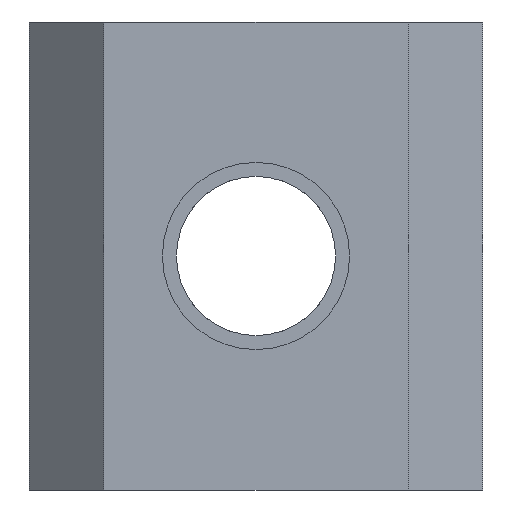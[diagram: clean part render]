
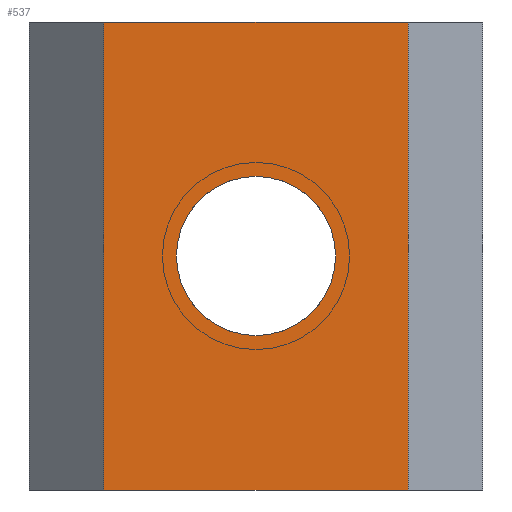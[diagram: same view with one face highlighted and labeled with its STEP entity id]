
A CAD part, front view. The second image highlights one B-rep face of the part: STEP entity #537.
In plain terms, the highlighted planar face has unit normal (0, -1, 0).
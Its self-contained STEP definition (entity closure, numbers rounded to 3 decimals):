
#25=DIRECTION('',(1.,0.,0.));
#26=VECTOR('',#25,13.);
#27=CARTESIAN_POINT('',(-6.5,-5.8,-10.));
#28=LINE('',#27,#26);
#159=DIRECTION('',(0.,0.,1.));
#160=VECTOR('',#159,20.);
#161=CARTESIAN_POINT('',(-6.5,-5.8,-10.));
#162=LINE('',#161,#160);
#163=CARTESIAN_POINT('',(0.,-5.8,0.));
#164=DIRECTION('',(0.,1.,0.));
#165=DIRECTION('',(1.,0.,0.));
#166=AXIS2_PLACEMENT_3D('',#163,#164,#165);
#168=CARTESIAN_POINT('',(0.,-5.8,0.));
#169=DIRECTION('',(0.,1.,0.));
#170=DIRECTION('',(-1.,0.,0.));
#171=AXIS2_PLACEMENT_3D('',#168,#169,#170);
#225=DIRECTION('',(1.,0.,0.));
#226=VECTOR('',#225,13.);
#227=CARTESIAN_POINT('',(-6.5,-5.8,10.));
#228=LINE('',#227,#226);
#261=DIRECTION('',(0.,0.,1.));
#262=VECTOR('',#261,20.);
#263=CARTESIAN_POINT('',(6.5,-5.8,-10.));
#264=LINE('',#263,#262);
#277=CARTESIAN_POINT('',(-6.5,-5.8,-10.));
#278=VERTEX_POINT('',#277);
#279=CARTESIAN_POINT('',(6.5,-5.8,-10.));
#280=VERTEX_POINT('',#279);
#303=CARTESIAN_POINT('',(-6.5,-5.8,10.));
#304=VERTEX_POINT('',#303);
#305=CARTESIAN_POINT('',(6.5,-5.8,10.));
#306=VERTEX_POINT('',#305);
#323=CARTESIAN_POINT('',(3.4,-5.8,0.));
#324=CARTESIAN_POINT('',(-3.4,-5.8,0.));
#325=VERTEX_POINT('',#323);
#326=VERTEX_POINT('',#324);
#519=CARTESIAN_POINT('',(-6.5,-5.8,-10.));
#520=DIRECTION('',(0.,-1.,0.));
#521=DIRECTION('',(1.,0.,0.));
#522=AXIS2_PLACEMENT_3D('',#519,#520,#521);
#523=PLANE('',#522);
#524=ORIENTED_EDGE('',*,*,#352,.F.);
#526=ORIENTED_EDGE('',*,*,#525,.T.);
#528=ORIENTED_EDGE('',*,*,#527,.T.);
#530=ORIENTED_EDGE('',*,*,#529,.F.);
#531=EDGE_LOOP('',(#524,#526,#528,#530));
#532=FACE_OUTER_BOUND('',#531,.F.);
#533=ORIENTED_EDGE('',*,*,#416,.F.);
#534=ORIENTED_EDGE('',*,*,#511,.F.);
#535=EDGE_LOOP('',(#533,#534));
#536=FACE_BOUND('',#535,.F.);
#537=ADVANCED_FACE('',(#532,#536),#523,.T.);
#167=CIRCLE('',#166,3.4);
#172=CIRCLE('',#171,3.4);
#352=EDGE_CURVE('',#278,#280,#28,.T.);
#416=EDGE_CURVE('',#325,#326,#167,.T.);
#511=EDGE_CURVE('',#326,#325,#172,.T.);
#525=EDGE_CURVE('',#278,#304,#162,.T.);
#527=EDGE_CURVE('',#304,#306,#228,.T.);
#529=EDGE_CURVE('',#280,#306,#264,.T.);
